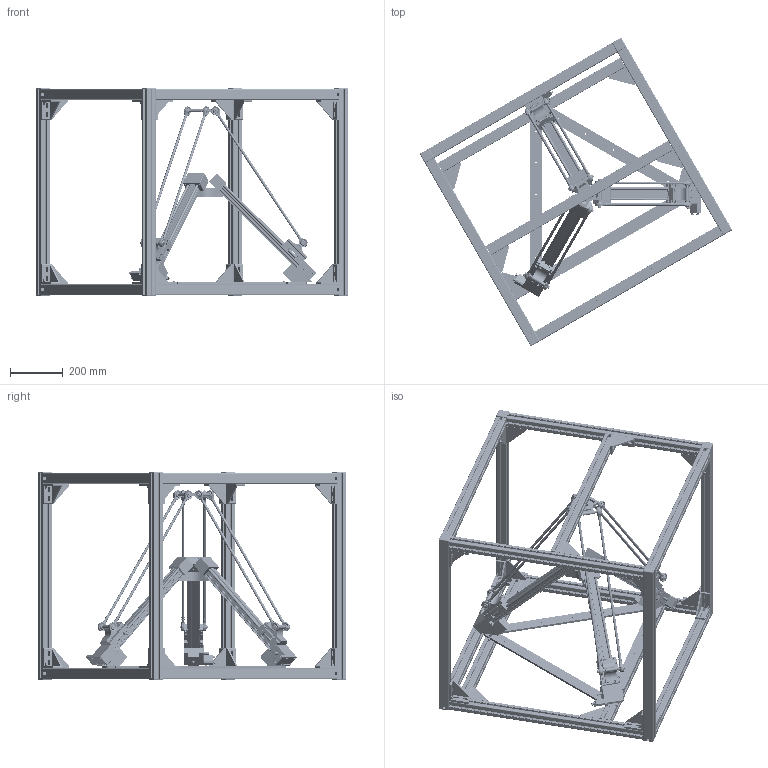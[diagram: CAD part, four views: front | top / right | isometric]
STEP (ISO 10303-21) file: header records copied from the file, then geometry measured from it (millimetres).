
FILE_DESCRIPTION(/* description */ (''),/* implementation_level */ '2;1');
FILE_NAME(/* name */ 'I:\Gleitlager\Konstruktion\SERIE NEU (im Aufbau!!)\drylin E\Deltaroboter\Modelle\DLE-DR-0055\DLE-DR-0055.stp',/* time_stamp */ '2019-04-16T10:44:15+02:00',/* author */ ('fkoeching'),/* organization */ (''),/* preprocessor_version */ 'ST-DEVELOPER v17',/* originating_system */ 'Autodesk Inventor 2018',/* authorisation */ '');
FILE_SCHEMA (('AUTOMOTIVE_DESIGN { 1 0 10303 214 3 1 1 }'));
Products named in the file (65): DLE-DR-0055; ETY-DR-0023; ETY-DR-0013; DLE-DR-ZLW-0005; ZSX-104001; ZTL-104002; SAXT-104001; ZTL-10400S-V; SAWT-104002; NOR-10412; ZR-104001; ZR-104001-XX; ZSY-104002; NOR-10703; ZTF-104004; SAXT-104004; SAXT-104002; NOR-10614; ZTF-10400S-V; SAWT-104001; ZTY-104035; NOR-20901; JTEM-10; ZTZ-104009; NOR-10604; ZSA-104001-AL; ZSY-104001; WJ200UMA-01-10-AL; WMA-01-10-AL; WRZ-011007; J200UMA-01-10; NOR-10601; AK-DR-0003; ZTY-104004; MH-06; NOR-20114; ETY-DR-0011; ZWY-104001; ETY-DR-0021; ETY-DR-0022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
Assembly tree (265 placements, depth 5):
  DLE-DR-0055
    ETY-DR-0023
    ETY-DR-0013  x3
    DLE-DR-ZLW-0005  x3
      ZSX-104001
      ZTL-104002
        SAXT-104001
        SAXT-104002
        NOR-10614  x2
        ZTL-10400S-V
          SAWT-104002
          NOR-10412  x4
          NOR-10604  x4
          JTEM-10  x4
          NOR-20901  x2
          ZTY-104035  x2
        ZTZ-104009  x2
      ZR-104001
        ZR-104001-XX
        NOR-10703  x2
        ZSY-104002  x2
      ZTF-104004
        SAXT-104004
        SAXT-104002
        NOR-10614  x2
        ZTF-10400S-V
          JTEM-10  x4
          SAWT-104001
          ZTY-104035  x2
          NOR-20901  x2
        ZTZ-104009  x2
        NOR-10604  x2
      ZSA-104001-AL
        ZSY-104001
        WJ200UMA-01-10-AL  x4
          WMA-01-10-AL
          WRZ-011007
          J200UMA-01-10
        NOR-10601  x4
      AK-DR-0003
        ZTY-104004
        MH-06  x2
        NOR-10629  x2
        NOR-20114  x4
    ETY-DR-0011
    ZWY-104001  x3
    ETY-DR-0021  x3
    ETY-DR-0022
    KDGM-DR-12-A-ER-J-600  x6
      RDGM-12X0.75-3000-ES
      /D/KARM-12-CL-KDGM
      ETY-DR-0024
    AK-DR-0007
      ETY-DR-0020  x12
      NOR-10737  x12
      NOR-10610  x3
      NOR-20602  x6
      NOR-10514  x3
      NOR-10629  x12
      NOR-10609  x12
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Bounding box: 1179.89 x 1165.25 x 788 mm (x, y, z)
Volume: 11508641.9 mm3; surface area: 8674219.5 mm2
Topology: 405 solids, 405 shells, 18684 faces, 50468 edges, 33156 vertices
Faces by surface type: plane 11125, cylinder 4652, bspline 1152, cone 1025, torus 488, sphere 242
Full cylindrical faces by diameter (mm): 2.5 x15, 3 x4, 3.2 x3, 3.5 x4, 4 x54, 4.018 x12, 4.134 x78, 4.2 x4, 4.5 x24, 4.917 x66, 5 x148, 5.3 x4, 5.4 x3, 5.5 x64, 5.96 x12, 6 x104, 6.2 x24, 6.6 x42, 6.647 x6, 7 x12, 7.2 x12, 8 x36, 8.5 x40, 9.43 x12, 9.5 x24, 9.8 x12, 10 x154, 10.2 x24, 10.5 x8, 11 x48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
Entity records: 110407 total; most frequent: CARTESIAN_POINT 27757, DIRECTION 16874, ORIENTED_EDGE 16554, EDGE_CURVE 8277, AXIS2_PLACEMENT_3D 5885, VERTEX_POINT 5502, LINE 5104, VECTOR 5104
